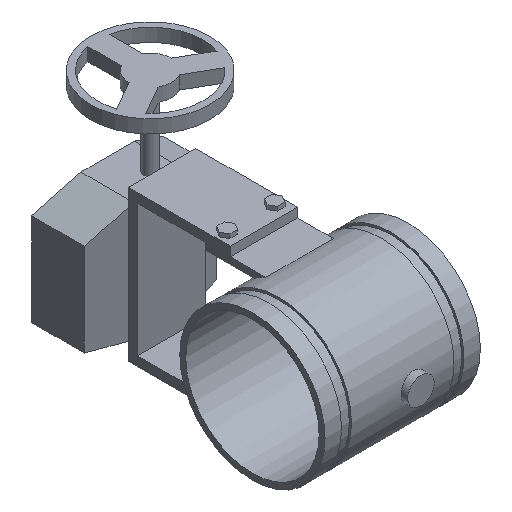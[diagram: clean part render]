
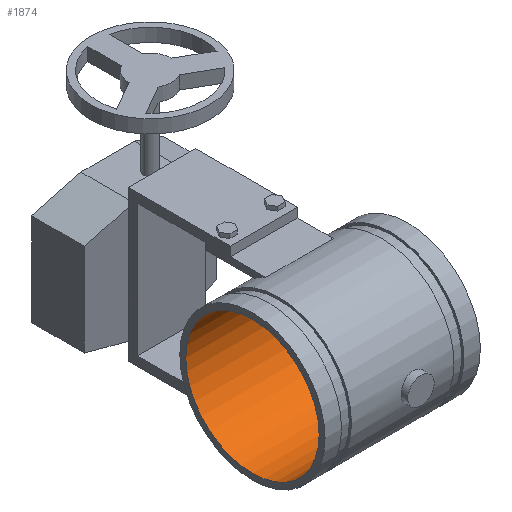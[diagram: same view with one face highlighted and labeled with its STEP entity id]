
A CAD part, isometric view. The second image highlights one B-rep face of the part: STEP entity #1874.
In plain terms, the highlighted cylindrical face has radius 64.097 mm (diameter 128.194 mm), a full revolution.
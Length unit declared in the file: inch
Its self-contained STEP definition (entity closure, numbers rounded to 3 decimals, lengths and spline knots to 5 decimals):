
#75=CYLINDRICAL_SURFACE('',#1999,2.5235);
#98=CIRCLE('',#2000,2.5235);
#99=CIRCLE('',#2001,2.5235);
#100=CIRCLE('',#2002,2.5235);
#101=CIRCLE('',#2003,2.5235);
#149=FACE_OUTER_BOUND('',#247,.T.);
#247=EDGE_LOOP('',(#1247,#1248,#1249,#1250,#1251,#1252));
#378=LINE('',#2815,#579);
#579=VECTOR('',#2214,2.5235);
#785=VERTEX_POINT('',#2811);
#786=VERTEX_POINT('',#2812);
#787=VERTEX_POINT('',#2814);
#788=VERTEX_POINT('',#2816);
#968=EDGE_CURVE('',#785,#786,#98,.T.);
#969=EDGE_CURVE('',#786,#787,#378,.T.);
#970=EDGE_CURVE('',#788,#787,#99,.T.);
#971=EDGE_CURVE('',#787,#788,#100,.T.);
#972=EDGE_CURVE('',#786,#785,#101,.T.);
#1247=ORIENTED_EDGE('',*,*,#968,.T.);
#1248=ORIENTED_EDGE('',*,*,#969,.T.);
#1249=ORIENTED_EDGE('',*,*,#970,.F.);
#1250=ORIENTED_EDGE('',*,*,#971,.F.);
#1251=ORIENTED_EDGE('',*,*,#969,.F.);
#1252=ORIENTED_EDGE('',*,*,#972,.T.);
#1874=ADVANCED_FACE('',(#149),#75,.F.);
#1999=AXIS2_PLACEMENT_3D('',#2810,#2210,#2211);
#2000=AXIS2_PLACEMENT_3D('',#2813,#2212,#2213);
#2001=AXIS2_PLACEMENT_3D('',#2817,#2215,#2216);
#2002=AXIS2_PLACEMENT_3D('',#2818,#2217,#2218);
#2003=AXIS2_PLACEMENT_3D('',#2819,#2219,#2220);
#2210=DIRECTION('center_axis',(1.,0.,0.));
#2211=DIRECTION('ref_axis',(0.,1.,0.));
#2212=DIRECTION('center_axis',(1.,0.,0.));
#2213=DIRECTION('ref_axis',(0.,0.,-1.));
#2214=DIRECTION('',(-1.,0.,0.));
#2215=DIRECTION('center_axis',(1.,0.,0.));
#2216=DIRECTION('ref_axis',(0.,0.,-1.));
#2217=DIRECTION('center_axis',(1.,0.,0.));
#2218=DIRECTION('ref_axis',(0.,0.,-1.));
#2219=DIRECTION('center_axis',(1.,0.,0.));
#2220=DIRECTION('ref_axis',(0.,0.,-1.));
#2810=CARTESIAN_POINT('Origin',(0.,0.,
0.));
#2811=CARTESIAN_POINT('',(2.94,2.5235,0.));
#2812=CARTESIAN_POINT('',(2.94,-2.5235,0.));
#2813=CARTESIAN_POINT('Origin',(2.94,0.,0.));
#2814=CARTESIAN_POINT('',(-2.94,-2.5235,0.));
#2815=CARTESIAN_POINT('',(0.,-2.5235,0.));
#2816=CARTESIAN_POINT('',(-2.94,2.5235,0.));
#2817=CARTESIAN_POINT('Origin',(-2.94,0.,0.));
#2818=CARTESIAN_POINT('Origin',(-2.94,0.,0.));
#2819=CARTESIAN_POINT('Origin',(2.94,0.,0.));
